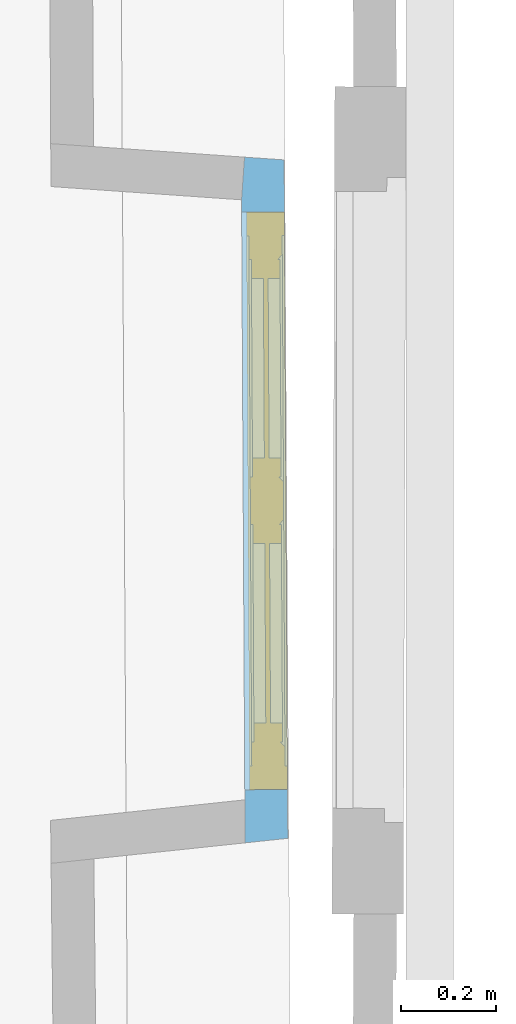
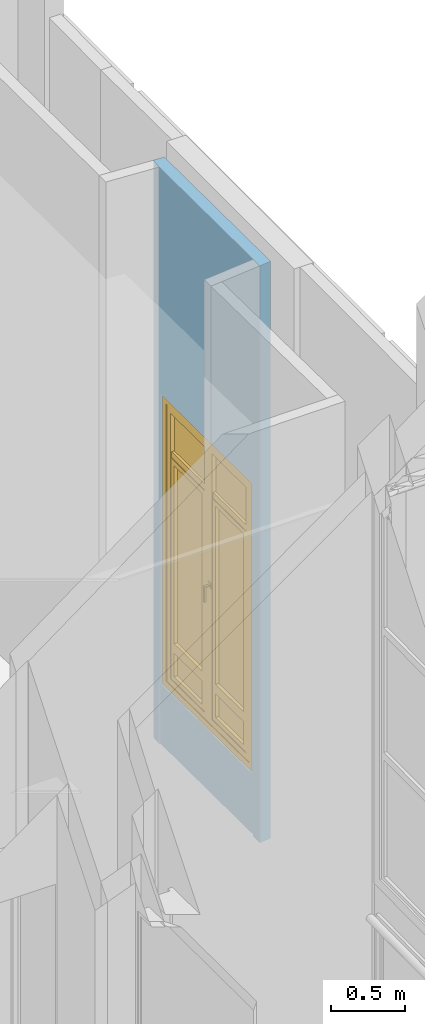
# One storey, part 63 of 97: 1 window, 2 openings, plus 1 element that does not belong to this part.
"""IFC2X3 building model written with IfcOpenShell, lengths in centimetres."""

from ifc_helpers import new_model, entity, si_unit, converted_unit, direction, frame, origin, origin_with_axes, place, context, subcontext, project, spatial, polyline, outline, extrude, faceted_brep, shape, source, transform, mapped, material, material_list, layer, layer_set, layer_usage, type_object, element, fill, save


model = new_model("IFC2X3")

# Units and contexts
model_context = context("Model", 3, precision=0.0001, world=origin(), true_north=direction((0.225632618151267, 0.974212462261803, 0.0)))
body_context = subcontext(model_context, "Body", "Model", "MODEL_VIEW")
footprint_context = subcontext(model_context, "FootPrint", "Model", "MODEL_VIEW")
profile_context = subcontext(model_context, "Profile", "Model", "MODEL_VIEW")
ifc_project = project(units=[si_unit("LENGTHUNIT", "METRE", prefix="CENTI"), si_unit("AREAUNIT", "SQUARE_METRE", prefix="CENTI"), si_unit("VOLUMEUNIT", "CUBIC_METRE", prefix="CENTI"), converted_unit("PLANEANGLEUNIT", "DEGREE", entity("IfcRatioMeasure", 0.0174532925), si_unit("PLANEANGLEUNIT", "RADIAN"), dimensions=[0, 0, 0, 0, 0, 0, 0])], contexts=[model_context])

# Site, building, storey
site_placement = place(None, origin_with_axes())
site = spatial("IfcSite", under=ifc_project, at=site_placement, Name="Default Site", CompositionType="ELEMENT")
building_placement = place(site_placement, origin_with_axes())
building = spatial("IfcBuilding", under=site, at=building_placement, Name="Default Building", CompositionType="ELEMENT")
storey_placement = place(building_placement, origin_with_axes())
storey = spatial("IfcBuildingStorey", under=building, at=storey_placement, Name="Rez-de-chaussée", CompositionType="ELEMENT", Elevation=0.0)

# Wall, openings, window
ifc_material_1 = material(Name="<aucun>")
ifc_layer = layer(ifc_material_1, 9.0)
ifc_layer_set = layer_set([ifc_layer], Name="default")
ifc_layer_usage = layer_usage(ifc_layer_set, "AXIS2", "POSITIVE", -4.5)
wall_type = type_object("IfcWallType", Name="default 90", PredefinedType="NOTDEFINED", material=ifc_layer_set)
wall_placement = place(storey_placement, frame((1121.74117112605, 387.945066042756, 0.0128503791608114), z_axis=(0.0, 0.0, 1.0), x_axis=(-0.00542779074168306, 0.999985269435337, 0.0)))
wall = element("IfcWallStandardCase", 1, at=wall_placement, inside=storey, type_object=wall_type, material=ifc_layer_usage, Name="Enveloppe 672747", context=body_context, shape_type="SweptSolid", body=[
    extrude(outline(polyline([(130.307049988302, 4.50000000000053), (-4.97342047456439, 4.49999999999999), (-4.0716444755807, -4.49999999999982), (138.656456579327, -4.49999999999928), (139.281773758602, 3.82595753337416), (130.307049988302, 4.50000000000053)])), frame((0.0, 0.0, -2.71050543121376e-18), z_axis=(0.0, 0.0, 1.0), x_axis=(1.0, 0.0, 0.0)), (0.0, 0.0, 1.0), 477.795358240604),
])
opening_1_placement = place(wall_placement, frame((4.07164447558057, 2.27373675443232e-13, -1.77635683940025e-13), z_axis=(0.0, 0.0, 1.0), x_axis=(1.0, 4.17634676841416e-15, 0.0)))
cartesian_point_1 = entity("IfcCartesianPoint", [0.0, -1.77635683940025e-13, 51.0])
cartesian_point_2 = entity("IfcCartesianPoint", [126.235405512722, 4.49999999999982])
element("IfcOpeningElement", 2, at=opening_1_placement, cuts=wall, Name="Baie 23835", ObjectType="Recess", shapes=[
    shape(body_context, "Body", "Brep", [faceted_brep([(-1.04955064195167e-05, 24.4999648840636, 50.9999994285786), (126.235426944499, 24.4999648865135, 50.9999994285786), (126.235426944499, 24.4999648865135, -4.62430102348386e-10), (-1.04955064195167e-05, 24.4999648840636, -4.62430102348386e-10), (-1.04950988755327e-05, 3.50003317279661, -4.62430102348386e-10), (-1.04950988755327e-05, 3.50003317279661, 50.9999994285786), (126.235426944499, 24.5000003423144, -4.62430102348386e-10), (126.235407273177, 3.49997339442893, -4.62430102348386e-10), (-5.80768735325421e-06, 3.50003317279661, -4.62430102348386e-10), (126.235426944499, 24.5000003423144, 50.9999994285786), (126.235426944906, 3.49997339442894, 50.9999994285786), (126.235426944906, 3.49997339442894, -4.62430102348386e-10), (-5.80768735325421e-06, 3.50003317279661, 50.9999994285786), (126.235407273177, 3.49997339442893, 50.9999994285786), (126.235407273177, 3.50003317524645, -4.62430102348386e-10), (126.235407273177, 3.50003317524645, 50.9999994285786)], [[[0, 1, 2, 3]], [[3, 4, 5, 0]], [[6, 7, 8, 3]], [[9, 10, 11, 6]], [[0, 12, 13, 9]], [[12, 8, 14, 15]]])]),
    shape(profile_context, "Profile", "GeometricCurveSet", [entity("IfcGeometricCurveSet", [entity("IfcPolyline", [cartesian_point_1, entity("IfcCartesianPoint", [0.0, -1.77635683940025e-13, -2.71050543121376e-18]), entity("IfcCartesianPoint", [126.235405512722, -1.77635683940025e-13, -2.71050543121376e-18]), entity("IfcCartesianPoint", [126.235405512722, -1.77635683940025e-13, 51.0]), cartesian_point_1])])]),
    shape(footprint_context, "FootPrint", "GeometricCurveSet", [entity("IfcGeometricCurveSet", [entity("IfcPolyline", [cartesian_point_2, entity("IfcCartesianPoint", [0.0, 4.49999999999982]), entity("IfcCartesianPoint", [0.0, -4.50000000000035]), entity("IfcCartesianPoint", [126.235405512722, -4.50000000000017]), cartesian_point_2])])]),
])
opening_2_placement = place(wall_placement, frame((6.18815742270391, -2.27373675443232e-13, 51.0871496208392), z_axis=(0.0, 0.0, 1.0), x_axis=(1.0, 4.17634676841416e-15, 0.0)))
cartesian_point_3 = entity("IfcCartesianPoint", [0.0, 1.77635683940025e-13, 240.0])
cartesian_point_4 = entity("IfcCartesianPoint", [121.522297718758, 4.50000000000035])
opening_2 = element("IfcOpeningElement", 3, at=opening_2_placement, cuts=wall, Name="4294966459_11", ObjectType="Opening", shapes=[
    shape(body_context, "Body", "SweptSolid", [extrude(outline(polyline([(4.44089209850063e-14, 240.0), (4.44089209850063e-14, 0.0), (121.522297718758, 0.0), (121.522297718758, 240.0), (4.44089209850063e-14, 240.0)])), frame((0.0, 14.5, 0.0), z_axis=(0.0, -1.0, 0.0), x_axis=(1.0, 0.0, 0.0)), (0.0, 0.0, 1.0), 29.0)]),
    shape(profile_context, "Profile", "GeometricCurveSet", [entity("IfcGeometricCurveSet", [entity("IfcPolyline", [cartesian_point_3, entity("IfcCartesianPoint", [0.0, 1.77635683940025e-13, 0.0]), entity("IfcCartesianPoint", [121.522297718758, 1.77635683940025e-13, 0.0]), entity("IfcCartesianPoint", [121.522297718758, 1.77635683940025e-13, 240.0]), cartesian_point_3])])]),
    shape(footprint_context, "FootPrint", "GeometricCurveSet", [entity("IfcGeometricCurveSet", [entity("IfcPolyline", [cartesian_point_4, entity("IfcCartesianPoint", [4.44089209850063e-14, 4.50000000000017]), entity("IfcCartesianPoint", [0.0, -4.49999999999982]), entity("IfcCartesianPoint", [121.522297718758, -4.49999999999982]), cartesian_point_4])])]),
])
ifc_material_2 = material(Name="Transparent")
ifc_material_3 = material(Name="Blanc trafic")
ifc_material_4 = material(Name="Aluminium satiné")
ifc_material_5 = material(Name="Blanc trafic")
ifc_material_list = material_list([ifc_material_2, ifc_material_3, ifc_material_4, ifc_material_5])
window_style = type_object("IfcWindowStyle", Name="FN[R] 2VB[2V] MM", ConstructionType="NOTDEFINED", OperationType="NOTDEFINED", ParameterTakesPrecedence=False, Sizeable=False, material=ifc_material_list)
shared_shape = source(origin_with_axes(), body_context, "Body", "Brep", [
    faceted_brep([(-55.7611465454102, 234.999990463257, -3.99999991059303), (-55.7611465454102, 234.999990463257, 3.99999991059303), (-55.7611465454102, 5.00000007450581, 3.99999991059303), (-55.7611465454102, 5.00000007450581, -3.99999991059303), (-60.7611477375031, 240.000009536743, 3.99999991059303), (-60.7611477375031, 1.11022302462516e-14, 3.99999991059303), (-60.7611477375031, 240.000009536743, -3.99999991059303), (-60.7611477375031, 1.11022302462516e-14, -3.99999991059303), (55.7611465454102, 5.00000007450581, 3.99999991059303), (55.7611465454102, 5.00000007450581, -3.99999991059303), (60.7611477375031, 1.11022302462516e-14, 3.99999991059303), (60.7611477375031, 1.11022302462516e-14, -3.99999991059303), (55.7611465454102, 234.999990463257, 3.99999991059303), (55.7611465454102, 234.999990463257, -3.99999991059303), (60.7611477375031, 240.000009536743, 3.99999991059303), (60.7611477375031, 240.000009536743, -3.99999991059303)], [[[0, 1, 2, 3]], [[1, 4, 5, 2]], [[4, 6, 7, 5]], [[6, 0, 3, 7]], [[3, 2, 8, 9]], [[2, 5, 10, 8]], [[5, 7, 11, 10]], [[7, 3, 9, 11]], [[9, 8, 12, 13]], [[8, 10, 14, 12]], [[10, 11, 15, 14]], [[11, 9, 13, 15]], [[13, 12, 1, 0]], [[12, 14, 4, 1]], [[14, 15, 6, 4]], [[15, 13, 0, 6]]]),
    faceted_brep([(-51.7611503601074, 230.999994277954, -3.50000001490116), (-50.7611508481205, 229.999995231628, -2.50000050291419), (-50.7611508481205, 10.0000001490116, -2.50000050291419), (-51.7611503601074, 9.00000035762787, -3.50000001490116), (-50.7611513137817, 229.999995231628, -2.5000000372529), (-50.7611513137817, 229.999995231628, 3.50000001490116), (-50.7611513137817, 10.0000001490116, 3.50000001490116), (-50.7611513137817, 10.0000001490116, -2.5000000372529), (-55.7611465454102, 234.999990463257, 3.50000001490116), (-55.7611465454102, 5.00000007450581, 3.50000001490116), (-55.7611465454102, 234.999990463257, -3.50000001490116), (-55.7611465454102, 5.00000007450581, -3.50000001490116), (-50.7611513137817, 10.0000002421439, -2.50000013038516), (-5.00000007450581, 10.0000002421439, -2.50000013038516), (-3.99999991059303, 9.00000035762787, -3.50000001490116), (-5.00000007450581, 10.0000001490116, 3.50000001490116), (-5.00000007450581, 10.0000001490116, -2.5000000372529), (5.55111512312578e-14, 5.00000007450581, 3.50000001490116), (5.55111512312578e-14, 5.00000007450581, -3.50000001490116), (-4.99999998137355, 10.0000001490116, -2.49999994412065), (-4.99999998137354, 229.999995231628, -2.49999994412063), (-3.99999991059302, 230.999994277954, -3.50000001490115), (-5.00000007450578, 229.999995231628, 3.50000001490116), (-5.00000007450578, 229.999995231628, -2.5000000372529), (6.66133814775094e-14, 234.999990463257, 3.50000001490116), (-5.00000007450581, 229.999995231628, 3.50000001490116), (6.66133806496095e-14, 234.999990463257, -3.50000001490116), (6.66133806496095e-14, 234.999990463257, 3.50000001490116), (-3.99999991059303, 230.999994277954, -3.50000001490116), (6.66133814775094e-14, 234.999990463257, -3.50000001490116), (-5.00000007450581, 229.999994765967, -2.50000050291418), (-50.7611513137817, 229.999994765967, -2.50000050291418), (-5.00000007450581, 229.999995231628, -2.5000000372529)], [[[0, 1, 2, 3]], [[4, 5, 6, 7]], [[5, 8, 9, 6]], [[8, 10, 11, 9]], [[10, 0, 3, 11]], [[3, 12, 13, 14]], [[7, 6, 15, 16]], [[6, 9, 17, 15]], [[9, 11, 18, 17]], [[11, 3, 14, 18]], [[14, 19, 20, 21]], [[16, 15, 22, 23]], [[15, 17, 24, 25]], [[17, 18, 26, 27]], [[18, 14, 28, 29]], [[28, 30, 31, 0]], [[32, 25, 5, 4]], [[25, 24, 8, 5]], [[24, 29, 10, 8]], [[29, 28, 0, 10]]]),
    faceted_brep([(-5.00000007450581, 229.999995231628, -0.499999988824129), (-5.00000007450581, 197.749996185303, -0.499999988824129), (-50.7611513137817, 197.749996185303, -0.499999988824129), (-50.7611513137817, 229.999995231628, -0.499999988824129), (-50.7611513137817, 229.999995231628, 0.499999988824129), (-50.7611513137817, 197.749996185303, 0.499999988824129), (-5.00000007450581, 197.749996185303, 0.499999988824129), (-5.00000007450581, 229.999995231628, 0.499999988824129)], [[[0, 1, 2, 3]], [[4, 5, 6, 7]], [[3, 2, 5, 4]], [[2, 1, 6, 5]], [[1, 0, 7, 6]], [[0, 3, 4, 7]]]),
    faceted_brep([(-5.00000007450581, 192.750000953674, 2.5000000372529), (-5.00000007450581, 192.750000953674, -2.5000000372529), (-5.00000007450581, 197.749996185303, -2.5000000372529), (-5.00000007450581, 197.749996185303, 2.5000000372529), (-50.7611513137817, 197.749996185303, 2.5000000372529), (-50.7611513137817, 197.749996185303, -2.5000000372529), (-50.7611513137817, 192.750000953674, -2.5000000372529), (-50.7611513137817, 192.750000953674, 2.5000000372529)], [[[0, 1, 2, 3]], [[4, 5, 6, 7]], [[3, 2, 5, 4]], [[2, 1, 6, 5]], [[1, 0, 7, 6]], [[0, 3, 4, 7]]]),
    faceted_brep([(-46.7611491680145, 188.750004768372, -2.99999993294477), (-46.7611491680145, 188.750004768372, 2.99999993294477), (-46.7611491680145, 41.4124995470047, 2.99999993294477), (-46.7611491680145, 41.4124995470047, -2.99999993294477), (-50.7611513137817, 192.750000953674, 2.99999993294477), (-50.7611513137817, 37.4125003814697, 2.99999993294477), (-50.7611513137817, 192.750000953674, -2.99999993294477), (-50.7611513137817, 37.4125003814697, -2.99999993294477), (-9.00000035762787, 41.4124995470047, 2.99999993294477), (-9.00000035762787, 41.4124995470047, -2.99999993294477), (-5.00000007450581, 37.4125003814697, 2.99999993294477), (-5.00000007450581, 37.4125003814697, -2.99999993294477), (-9.00000035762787, 188.750004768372, 2.99999993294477), (-9.00000035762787, 188.750004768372, -2.99999993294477), (-5.00000007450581, 192.750000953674, 2.99999993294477), (-5.0000000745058, 192.750000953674, -2.99999993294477), (-5.0000000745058, 192.750000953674, 2.99999993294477), (-5.00000007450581, 192.750000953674, -2.99999993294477)], [[[0, 1, 2, 3]], [[1, 4, 5, 2]], [[4, 6, 7, 5]], [[6, 0, 3, 7]], [[3, 2, 8, 9]], [[2, 5, 10, 8]], [[5, 7, 11, 10]], [[7, 3, 9, 11]], [[9, 8, 12, 13]], [[8, 10, 14, 12]], [[10, 11, 15, 16]], [[11, 9, 13, 17]], [[13, 12, 1, 0]], [[12, 14, 4, 1]], [[14, 17, 6, 4]], [[17, 13, 0, 6]]]),
    faceted_brep([(-9.00000035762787, 188.750004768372, -0.499999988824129), (-9.00000035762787, 41.4124995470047, -0.499999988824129), (-46.7611491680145, 41.4124995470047, -0.499999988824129), (-46.7611491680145, 188.750004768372, -0.499999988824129), (-46.7611491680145, 188.750004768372, 0.499999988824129), (-46.7611491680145, 41.4124995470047, 0.499999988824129), (-9.00000035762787, 41.4124995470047, 0.499999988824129), (-9.00000035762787, 188.750004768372, 0.499999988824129), (-9.00000035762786, 188.750004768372, -0.499999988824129), (-9.00000035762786, 188.750004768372, 0.499999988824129)], [[[0, 1, 2, 3]], [[4, 5, 6, 7]], [[3, 2, 5, 4]], [[2, 1, 6, 5]], [[1, 8, 9, 6]], [[0, 3, 4, 7]]]),
    faceted_brep([(-46.7611491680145, 33.4125012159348, -2.99999993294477), (-46.7611491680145, 33.4125012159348, 2.99999993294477), (-46.7611491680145, 14.0000000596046, 2.99999993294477), (-46.7611491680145, 14.0000000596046, -2.99999993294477), (-50.7611513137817, 37.4125003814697, 2.99999993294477), (-50.7611513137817, 10.0000001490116, 2.99999993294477), (-50.7611513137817, 37.4125003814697, -2.99999993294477), (-50.7611513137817, 10.0000001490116, -2.99999993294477), (-9.00000035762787, 14.0000000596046, 2.99999993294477), (-9.00000035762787, 14.0000000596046, -2.99999993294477), (-5.00000007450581, 10.0000001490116, 2.99999993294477), (-5.00000007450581, 10.0000001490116, -2.99999993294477), (-9.00000035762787, 33.4125012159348, 2.99999993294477), (-9.00000035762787, 33.4125012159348, -2.99999993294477), (-5.00000007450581, 37.4125003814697, 2.99999993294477), (-5.00000007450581, 37.4125003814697, -2.99999993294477)], [[[0, 1, 2, 3]], [[1, 4, 5, 2]], [[4, 6, 7, 5]], [[6, 0, 3, 7]], [[3, 2, 8, 9]], [[2, 5, 10, 8]], [[5, 7, 11, 10]], [[7, 3, 9, 11]], [[9, 8, 12, 13]], [[8, 10, 14, 12]], [[10, 11, 15, 14]], [[11, 9, 13, 15]], [[13, 12, 1, 0]], [[12, 14, 4, 1]], [[14, 15, 6, 4]], [[15, 13, 0, 6]]]),
    faceted_brep([(-9.00000035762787, 33.4125012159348, -0.499999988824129), (-9.00000035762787, 14.0000000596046, -0.499999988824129), (-46.7611491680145, 14.0000000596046, -0.499999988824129), (-46.7611491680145, 33.4125012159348, -0.499999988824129), (-46.7611491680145, 33.4125012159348, 0.499999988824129), (-46.7611491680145, 14.0000000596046, 0.499999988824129), (-9.00000035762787, 14.0000000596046, 0.499999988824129), (-9.00000035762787, 33.4125012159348, 0.499999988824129)], [[[0, 1, 2, 3]], [[4, 5, 6, 7]], [[3, 2, 5, 4]], [[2, 1, 6, 5]], [[1, 0, 7, 6]], [[0, 3, 4, 7]]]),
    faceted_brep([(3.99999991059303, 230.999994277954, -3.50000001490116), (4.99999998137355, 229.999995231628, -2.49999994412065), (4.99999998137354, 10.0000001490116, -2.49999994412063), (3.99999991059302, 9.00000035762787, -3.50000001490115), (5.00000007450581, 229.999995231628, -2.5000000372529), (5.00000007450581, 229.999995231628, 3.50000001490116), (5.00000007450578, 10.0000001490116, 3.50000001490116), (5.00000007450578, 10.0000001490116, -2.5000000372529), (6.66133814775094e-14, 234.999990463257, 3.50000001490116), (5.55111512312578e-14, 5.00000007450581, 3.50000001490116), (5.00000007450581, 10.0000001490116, 3.50000001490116), (6.66133814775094e-14, 234.999990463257, -3.50000001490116), (5.55111520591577e-14, 5.00000007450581, -3.50000001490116), (5.55111520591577e-14, 5.00000007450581, 3.50000001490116), (3.99999991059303, 9.00000035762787, -3.50000001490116), (5.55111512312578e-14, 5.00000007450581, -3.50000001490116), (5.00000007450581, 10.0000002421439, -2.50000013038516), (50.7611513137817, 10.0000002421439, -2.50000013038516), (51.7611503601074, 9.00000035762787, -3.50000001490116), (5.00000007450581, 10.0000001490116, -2.5000000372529), (50.7611513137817, 10.0000001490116, 3.50000001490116), (50.7611513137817, 10.0000001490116, -2.5000000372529), (55.7611465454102, 5.00000007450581, 3.50000001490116), (55.7611465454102, 5.00000007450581, -3.50000001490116), (50.7611508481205, 10.0000001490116, -2.50000050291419), (50.7611508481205, 229.999995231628, -2.50000050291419), (51.7611503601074, 230.999994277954, -3.50000001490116), (50.7611513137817, 229.999995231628, 3.50000001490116), (50.7611513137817, 229.999995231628, -2.5000000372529), (55.7611465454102, 234.999990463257, 3.50000001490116), (55.7611465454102, 234.999990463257, -3.50000001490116), (50.7611513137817, 229.999994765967, -2.50000050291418), (5.00000007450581, 229.999994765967, -2.50000050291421), (3.99999991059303, 230.999994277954, -3.50000001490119)], [[[0, 1, 2, 3]], [[4, 5, 6, 7]], [[5, 8, 9, 10]], [[8, 11, 12, 13]], [[11, 0, 14, 15]], [[14, 16, 17, 18]], [[19, 10, 20, 21]], [[10, 9, 22, 20]], [[9, 15, 23, 22]], [[15, 14, 18, 23]], [[18, 24, 25, 26]], [[21, 20, 27, 28]], [[20, 22, 29, 27]], [[22, 23, 30, 29]], [[23, 18, 26, 30]], [[26, 31, 32, 33]], [[28, 27, 5, 4]], [[27, 29, 8, 5]], [[29, 30, 11, 8]], [[30, 26, 0, 11]]]),
    faceted_brep([(4.50000017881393, 122.000002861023, 3.50000001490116), (4.50000017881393, 117.999994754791, 3.50000001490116), (0.499999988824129, 117.999994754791, 3.50000001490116), (0.499999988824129, 122.000002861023, 3.50000001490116), (0.499999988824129, 122.000002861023, 4.30000014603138), (0.499999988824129, 117.999994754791, 4.30000014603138), (4.50000017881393, 117.999994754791, 4.30000014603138), (4.50000017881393, 122.000002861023, 4.30000014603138)], [[[0, 1, 2, 3]], [[4, 5, 6, 7]], [[3, 2, 5, 4]], [[2, 1, 6, 5]], [[1, 0, 7, 6]], [[0, 3, 4, 7]]]),
    faceted_brep([(3.24999988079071, 120.500004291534, 4.30000014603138), (3.24999988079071, 119.500005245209, 4.30000014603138), (1.75000000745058, 119.500005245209, 4.30000014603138), (1.75000000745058, 120.500004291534, 4.30000014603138), (1.75000000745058, 120.500004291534, 8.29999968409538), (1.75000000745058, 119.50000487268, 7.30000026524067), (3.24999988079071, 119.50000487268, 7.30000026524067), (3.24999988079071, 120.500004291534, 8.29999968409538), (1.75000000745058, 119.500005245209, 7.29999989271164), (3.24999988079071, 119.500005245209, 7.29999989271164)], [[[0, 1, 2, 3]], [[4, 5, 6, 7]], [[3, 2, 8, 4]], [[2, 1, 9, 8]], [[1, 0, 7, 9]], [[0, 3, 4, 7]]]),
    faceted_brep([(3.24999988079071, 120.500004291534, 8.29999968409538), (3.24999988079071, 119.50000487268, 7.30000026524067), (1.75000000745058, 119.50000487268, 7.30000026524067), (1.75000000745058, 120.500004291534, 8.29999968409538), (1.75000000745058, 107.500004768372, 8.29999968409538), (1.75000000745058, 107.500004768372, 7.29999989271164), (3.24999988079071, 107.500004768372, 7.29999989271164), (3.24999988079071, 107.500004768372, 8.29999968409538), (1.75000000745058, 119.500005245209, 7.29999989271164), (3.24999988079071, 119.500005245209, 7.29999989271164)], [[[0, 1, 2, 3]], [[4, 5, 6, 7]], [[3, 8, 5, 4]], [[8, 9, 6, 5]], [[9, 0, 7, 6]], [[0, 3, 4, 7]]]),
    faceted_brep([(50.7611513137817, 229.999995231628, -0.499999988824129), (50.7611513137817, 197.749996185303, -0.499999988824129), (5.00000007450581, 197.749996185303, -0.499999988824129), (5.00000007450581, 229.999995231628, -0.499999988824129), (5.00000007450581, 229.999995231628, 0.499999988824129), (5.00000007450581, 197.749996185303, 0.499999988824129), (50.7611513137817, 197.749996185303, 0.499999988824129), (50.7611513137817, 229.999995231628, 0.499999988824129), (5.0000000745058, 197.749996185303, -0.499999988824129), (5.0000000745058, 197.749996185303, 0.499999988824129)], [[[0, 1, 2, 3]], [[4, 5, 6, 7]], [[3, 8, 9, 4]], [[2, 1, 6, 5]], [[1, 0, 7, 6]], [[0, 3, 4, 7]]]),
    faceted_brep([(50.7611513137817, 192.750000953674, 2.5000000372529), (50.7611513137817, 192.750000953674, -2.5000000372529), (50.7611513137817, 197.749996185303, -2.5000000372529), (50.7611513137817, 197.749996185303, 2.5000000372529), (5.00000007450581, 197.749996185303, 2.5000000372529), (5.00000007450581, 197.749996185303, -2.5000000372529), (5.00000007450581, 192.750000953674, -2.5000000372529), (5.00000007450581, 192.750000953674, 2.5000000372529)], [[[0, 1, 2, 3]], [[4, 5, 6, 7]], [[3, 2, 5, 4]], [[2, 1, 6, 5]], [[1, 0, 7, 6]], [[0, 3, 4, 7]]]),
    faceted_brep([(9.00000035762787, 188.750004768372, -2.99999993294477), (9.00000035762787, 188.750004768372, 2.99999993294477), (9.00000035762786, 41.4124995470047, 2.99999993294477), (9.00000035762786, 41.4124995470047, -2.99999993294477), (5.00000007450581, 192.750000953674, 2.99999993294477), (5.00000007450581, 37.4125003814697, 2.99999993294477), (9.00000035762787, 41.4124995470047, 2.99999993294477), (5.00000007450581, 192.750000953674, -2.99999993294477), (5.00000007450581, 37.4125003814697, -2.99999993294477), (9.00000035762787, 41.4124995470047, -2.99999993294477), (46.7611491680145, 41.4124995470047, 2.99999993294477), (46.7611491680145, 41.4124995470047, -2.99999993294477), (50.7611513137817, 37.4125003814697, 2.99999993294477), (50.7611513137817, 37.4125003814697, -2.99999993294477), (46.7611491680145, 188.750004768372, 2.99999993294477), (46.7611491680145, 188.750004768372, -2.99999993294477), (50.7611513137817, 192.750000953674, 2.99999993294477), (50.7611513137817, 192.750000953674, -2.99999993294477)], [[[0, 1, 2, 3]], [[1, 4, 5, 6]], [[4, 7, 8, 5]], [[7, 0, 9, 8]], [[9, 6, 10, 11]], [[6, 5, 12, 10]], [[5, 8, 13, 12]], [[8, 9, 11, 13]], [[11, 10, 14, 15]], [[10, 12, 16, 14]], [[12, 13, 17, 16]], [[13, 11, 15, 17]], [[15, 14, 1, 0]], [[14, 16, 4, 1]], [[16, 17, 7, 4]], [[17, 15, 0, 7]]]),
    faceted_brep([(46.7611491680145, 188.750004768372, -0.499999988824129), (46.7611491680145, 41.4124995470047, -0.499999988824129), (9.00000035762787, 41.4124995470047, -0.499999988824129), (9.00000035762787, 188.750004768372, -0.499999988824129), (9.00000035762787, 188.750004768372, 0.499999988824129), (9.00000035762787, 41.4124995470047, 0.499999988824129), (46.7611491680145, 41.4124995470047, 0.499999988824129), (46.7611491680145, 188.750004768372, 0.499999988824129)], [[[0, 1, 2, 3]], [[4, 5, 6, 7]], [[3, 2, 5, 4]], [[2, 1, 6, 5]], [[1, 0, 7, 6]], [[0, 3, 4, 7]]]),
    faceted_brep([(9.00000035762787, 33.4125012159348, -2.99999993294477), (9.00000035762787, 33.4125012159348, 2.99999993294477), (9.00000035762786, 14.0000000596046, 2.99999993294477), (9.00000035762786, 14.0000000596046, -2.99999993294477), (5.00000007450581, 37.4125003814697, 2.99999993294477), (5.00000007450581, 10.0000001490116, 2.99999993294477), (9.00000035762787, 14.0000000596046, 2.99999993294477), (5.00000007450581, 37.4125003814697, -2.99999993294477), (5.00000007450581, 10.0000001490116, -2.99999993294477), (9.00000035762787, 14.0000000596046, -2.99999993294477), (46.7611491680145, 14.0000000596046, 2.99999993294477), (46.7611491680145, 14.0000000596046, -2.99999993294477), (50.7611513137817, 10.0000001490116, 2.99999993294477), (50.7611513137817, 10.0000001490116, -2.99999993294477), (46.7611491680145, 33.4125012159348, 2.99999993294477), (46.7611491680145, 33.4125012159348, -2.99999993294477), (50.7611513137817, 37.4125003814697, 2.99999993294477), (50.7611513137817, 37.4125003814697, -2.99999993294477)], [[[0, 1, 2, 3]], [[1, 4, 5, 6]], [[4, 7, 8, 5]], [[7, 0, 9, 8]], [[9, 6, 10, 11]], [[6, 5, 12, 10]], [[5, 8, 13, 12]], [[8, 9, 11, 13]], [[11, 10, 14, 15]], [[10, 12, 16, 14]], [[12, 13, 17, 16]], [[13, 11, 15, 17]], [[15, 14, 1, 0]], [[14, 16, 4, 1]], [[16, 17, 7, 4]], [[17, 15, 0, 7]]]),
    faceted_brep([(46.7611491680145, 33.4125012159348, -0.499999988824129), (46.7611491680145, 14.0000000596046, -0.499999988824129), (9.00000035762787, 14.0000000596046, -0.499999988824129), (9.00000035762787, 33.4125012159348, -0.499999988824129), (9.00000035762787, 33.4125012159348, 0.499999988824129), (9.00000035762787, 14.0000000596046, 0.499999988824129), (46.7611491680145, 14.0000000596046, 0.499999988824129), (46.7611491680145, 33.4125012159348, 0.499999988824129), (9.00000035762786, 14.0000000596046, -0.499999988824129), (9.00000035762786, 14.0000000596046, 0.499999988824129)], [[[0, 1, 2, 3]], [[4, 5, 6, 7]], [[3, 8, 9, 4]], [[2, 1, 6, 5]], [[1, 0, 7, 6]], [[0, 3, 4, 7]]]),
])
window_placement = place(opening_2_placement, frame((-1.13686837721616e-13, -4.5, 0.0), z_axis=(0.0, 0.0, 1.0), x_axis=(1.0, 0.0, 0.0)))
window = element("IfcWindow", 4, at=window_placement, inside=storey, type_object=window_style, material=ifc_material_list, Name="Fenêtre 23840", OverallHeight=240.0, OverallWidth=121.522297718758, context=body_context, shape_type="MappedRepresentation", body=[
    mapped(shared_shape, transform((60.7611488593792, 4.00000000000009, 0.0), x_axis=(-1.0, -8.67361737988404e-19, 0.0), y_axis=(0.0, 0.0, 1.0), z_axis=(-8.67361737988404e-19, 1.0, 0.0), scale=1.0, scale2=1.0, scale3=1.0, uniform=False)),
])
fill(opening_2, window)

save(model, "model.ifc")
